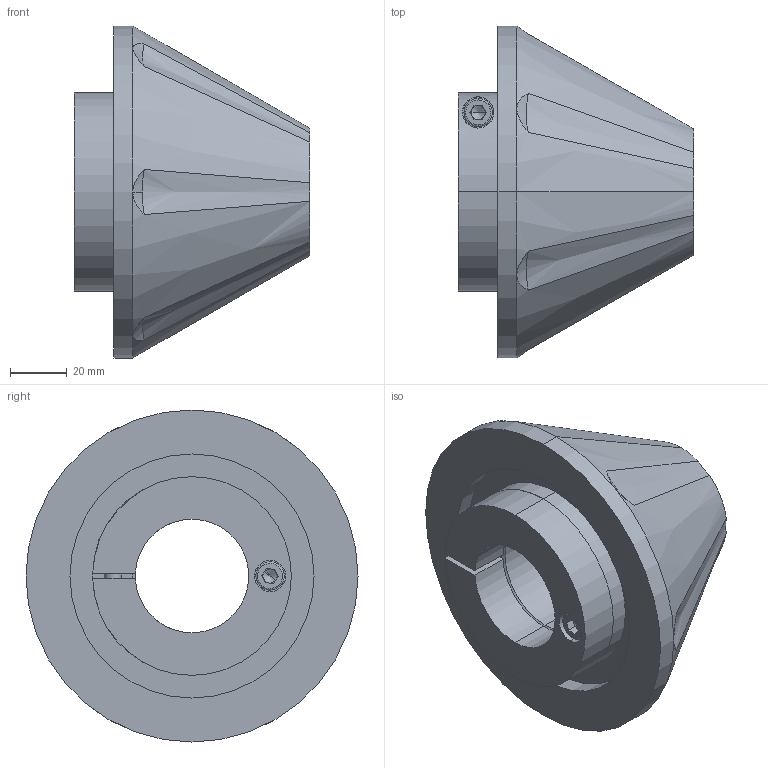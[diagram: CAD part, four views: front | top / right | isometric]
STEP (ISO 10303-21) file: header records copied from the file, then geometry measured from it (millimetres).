
FILE_DESCRIPTION (( 'STEP AP214' ), '1' );
FILE_NAME ('CL-40-F70.STEP', '2023-03-07T08:21:52', ( '' ), ( '' ), 'SwSTEP 2.0', 'SolidWorks 2022', '' );
FILE_SCHEMA (( 'AUTOMOTIVE_DESIGN' ));
Length unit declared in the file: millimetre
Products named in the file (1): CL-40-F70
Bounding box: 83 x 117 x 117 mm (x, y, z)
Volume: 345588.3 mm3; surface area: 55245.6 mm2
Topology: 4 solids, 4 shells, 112 faces, 266 edges, 165 vertices
Faces by surface type: plane 40, cylinder 34, cone 30, bspline 8
Entity records: 5614 total; most frequent: CARTESIAN_POINT 1790, DIRECTION 532, ORIENTED_EDGE 520, EDGE_CURVE 260, AXIS2_PLACEMENT_3D 213, VERTEX_POINT 165, EDGE_LOOP 129, UNCERTAINTY_MEASURE_WITH_UNIT 118
